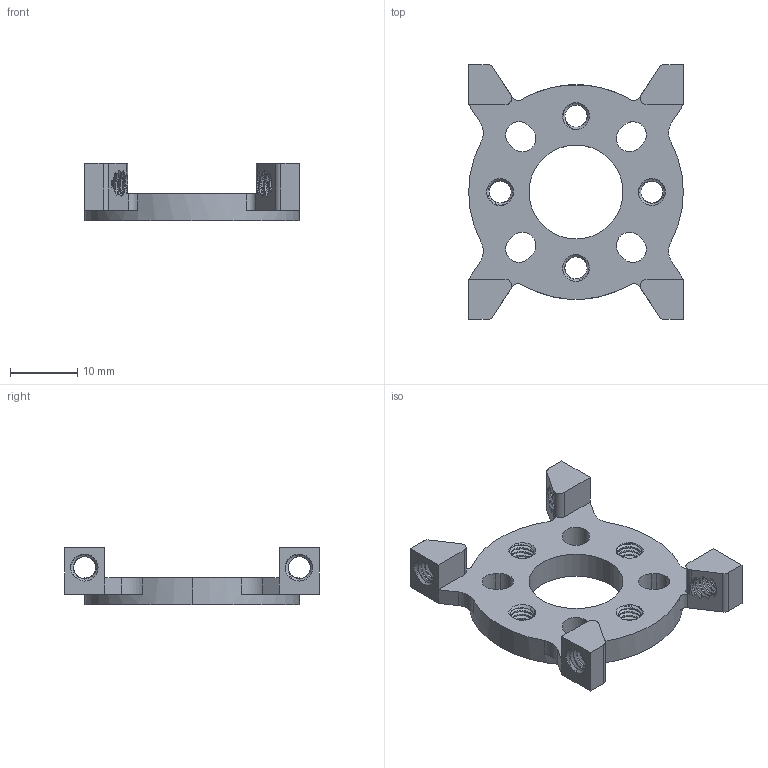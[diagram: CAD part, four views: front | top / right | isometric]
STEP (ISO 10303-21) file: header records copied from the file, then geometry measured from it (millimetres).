
FILE_DESCRIPTION (( 'STEP AP203' ), '1' );
FILE_NAME ('1221-0032-0001.STEP', '2018-01-24T16:54:20', ( '' ), ( '' ), 'SwSTEP 2.0', 'SolidWorks 2016', '' );
FILE_SCHEMA (( 'CONFIG_CONTROL_DESIGN' ));
Length unit declared in the file: millimetre
Products named in the file (1): 1221-0032-0001
Bounding box: 32 x 38 x 8.5 mm (x, y, z)
Volume: 2978.9 mm3; surface area: 3341.5 mm2
Topology: 1 solids, 1 shells, 396 faces, 1163 edges, 765 vertices
Faces by surface type: cylinder 280, plane 42, bspline 38, cone 36
Entity records: 57894 total; most frequent: CARTESIAN_POINT 48994, ORIENTED_EDGE 2326, DIRECTION 1390, EDGE_CURVE 1163, VERTEX_POINT 765, AXIS2_PLACEMENT_3D 507, EDGE_LOOP 418, ADVANCED_FACE 396
